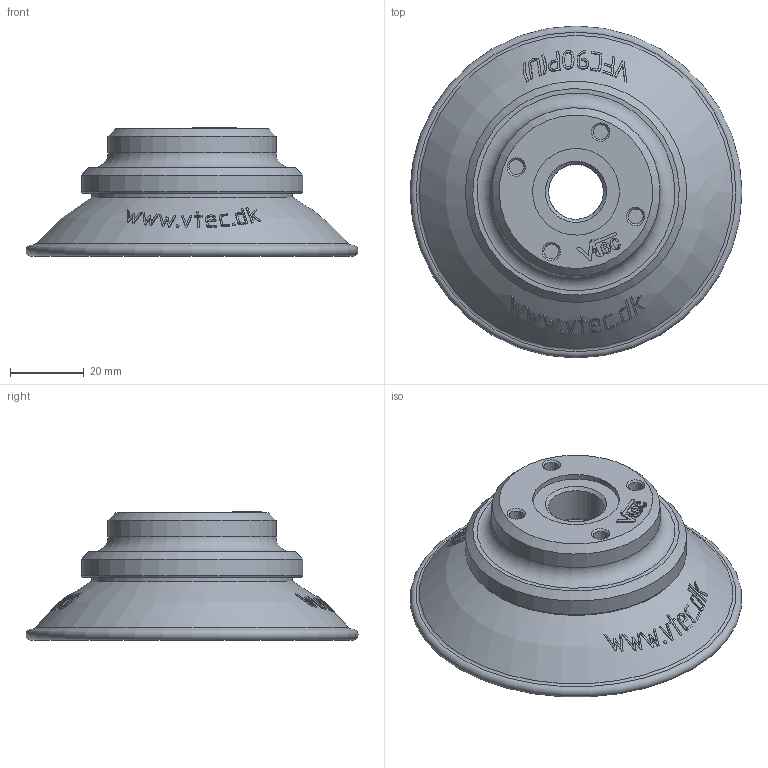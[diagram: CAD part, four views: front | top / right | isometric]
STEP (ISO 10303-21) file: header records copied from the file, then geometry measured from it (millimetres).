
FILE_DESCRIPTION( ( 'STEP AP203' ), '1' );
FILE_NAME( 'C:/Documents and Settings/Owner/官帕 拳搁/3D/Vacuum Pad/VFC series/VFC90-38F.stp', '2006-04-25T05:06:47', ( ' ' ), ( ' ' ), 'XStep 1.0', ' ', ' ' );
FILE_SCHEMA( ( 'CONFIG_CONTROL_DESIGN) ( )' ) );
Length unit declared in the file: metre
Products named in the file (3): Assem1; 1; 2
Bounding box: 90 x 90 x 34.8 mm (x, y, z)
Volume: 110453.6 mm3; surface area: 57299.6 mm2
Topology: 4 solids, 4 shells, 776 faces, 1890 edges, 1254 vertices
Faces by surface type: bspline 300, plane 180, cylinder 152, sphere 106, cone 20, torus 14, extrusion 4
Full cylindrical faces by diameter (mm): 0.791 x2, 4 x16, 6.7 x8, 14.9 x2, 15 x2, 23.5 x2, 45.6 x2, 54.5 x2, 55 x2, 60 x2
Entity records: 20374 total; most frequent: CARTESIAN_POINT 12239, ORIENTED_EDGE 1778, DIRECTION 1258, EDGE_CURVE 889, VERTEX_POINT 615, EDGE_LOOP 510, AXIS2_PLACEMENT_3D 488, FACE_OUTER_BOUND 421
